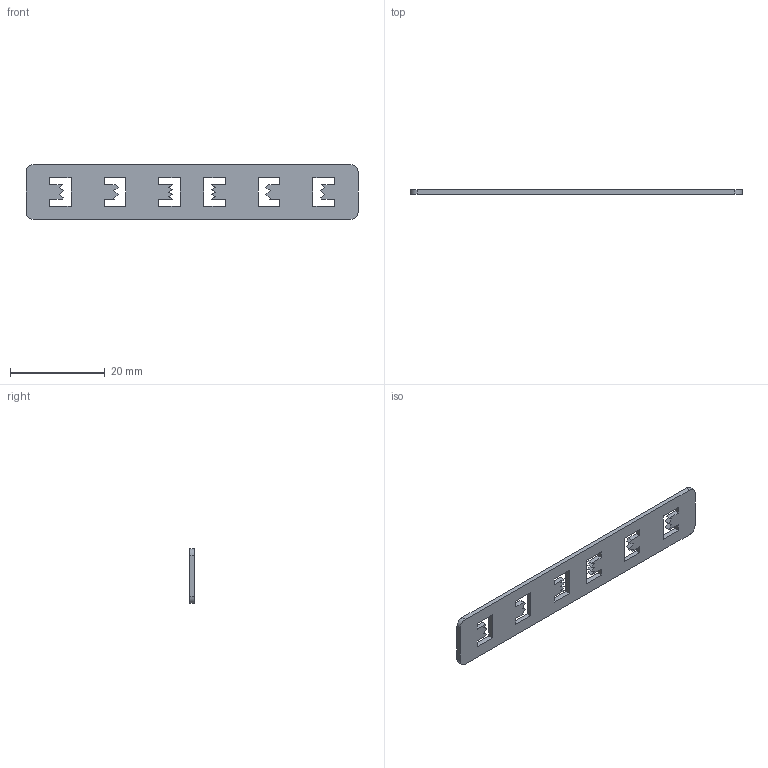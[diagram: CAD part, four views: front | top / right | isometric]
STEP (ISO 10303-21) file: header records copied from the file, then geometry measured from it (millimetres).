
FILE_DESCRIPTION((''),'2;1');
FILE_NAME('XBJ','2025-03-25T15:40:21',('Administrator'),(''),'CREO PARAMETRIC BY PTC INC, 2020053','CREO PARAMETRIC BY PTC INC, 2020053','');
FILE_SCHEMA(('CONFIG_CONTROL_DESIGN'));
Length unit declared in the file: millimetre
Products named in the file (1): XBJ
Bounding box: 70 x 1 x 11.5 mm (x, y, z)
Volume: 685.4 mm3; surface area: 1703.6 mm2
Topology: 1 solids, 1 shells, 84 faces, 246 edges, 164 vertices
Faces by surface type: plane 80, cylinder 4
Entity records: 2800 total; most frequent: CARTESIAN_POINT 494, ORIENTED_EDGE 492, DIRECTION 422, EDGE_CURVE 246, VECTOR 238, LINE 238, VERTEX_POINT 164, EDGE_LOOP 96
